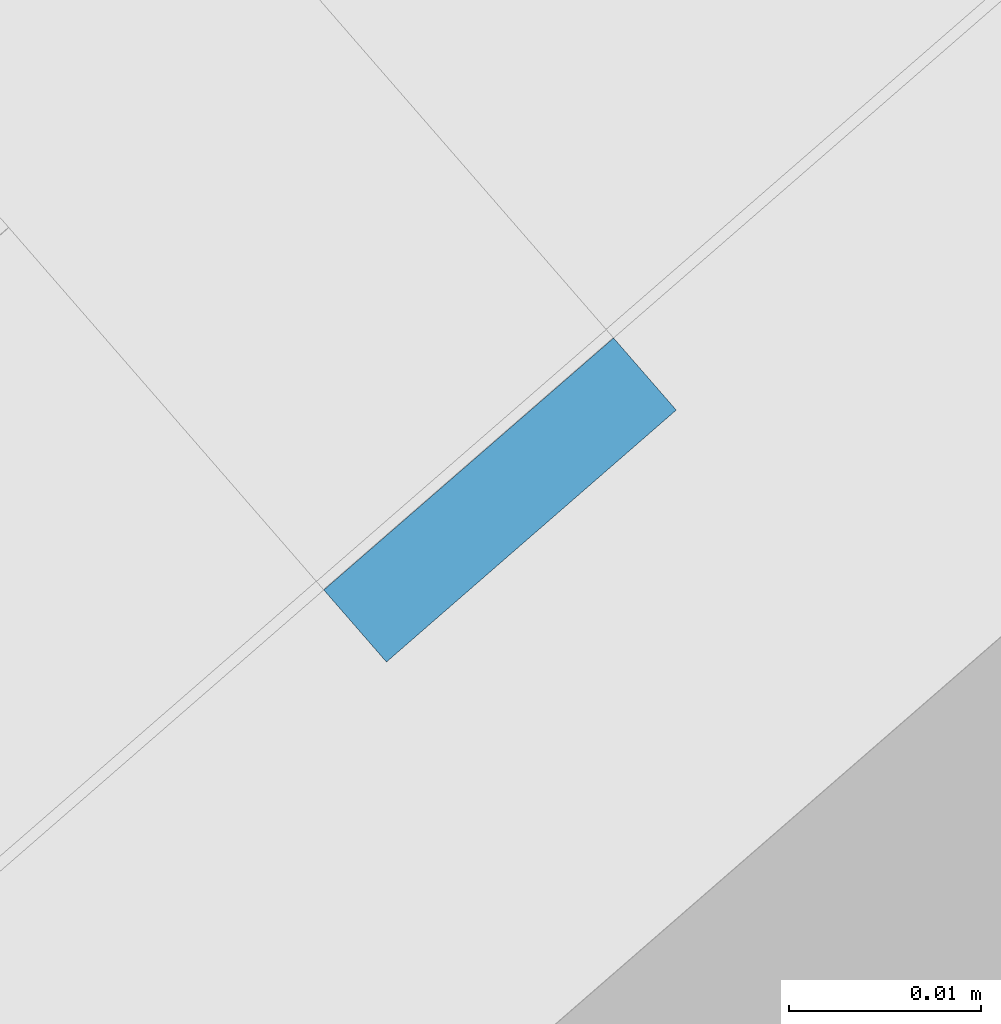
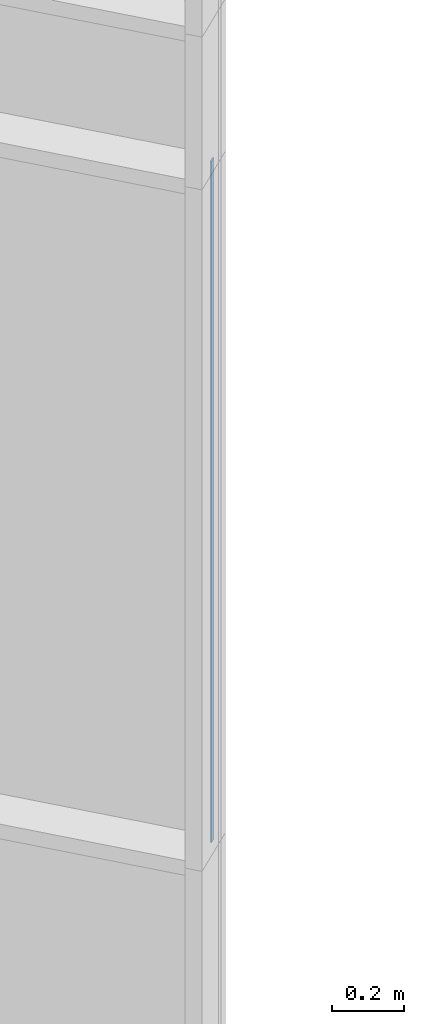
# One storey, part 53 of 390: 1 discrete accessory, 1 element without a shape of its own.
"""IFC2X3 building model written with IfcOpenShell, lengths in millimetres."""

from ifc_helpers import new_model, entity, si_unit, converted_unit, derived_unit, money_unit, direction, frame, origin_with_axes, place, context, subcontext, project, spatial, polyline, outline, extrude, material, type_object, element, aggregate, save


model = new_model("IFC2X3")

# Units and contexts
model_context = context("Model", 3, precision=1e-05, world=origin_with_axes(), true_north=direction((0.0, 1.0)))
body_context = subcontext(model_context, "Body", "Model", "MODEL_VIEW")
ifc_project = project(units=[si_unit("LENGTHUNIT", "METRE", prefix="MILLI"), si_unit("AREAUNIT", "SQUARE_METRE"), si_unit("VOLUMEUNIT", "CUBIC_METRE"), converted_unit("PLANEANGLEUNIT", "DEGREE", entity("IfcPlaneAngleMeasure", 0.0174532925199), si_unit("PLANEANGLEUNIT", "RADIAN"), dimensions=[0, 0, 0, 0, 0, 0, 0]), si_unit("SOLIDANGLEUNIT", "STERADIAN"), money_unit("EUR"), converted_unit("TIMEUNIT", "Year", entity("IfcTimeMeasure", 31556926.0), si_unit("TIMEUNIT", "SECOND"), dimensions=[0, 0, 1, 0, 0, 0, 0]), si_unit("MASSUNIT", "GRAM", prefix="KILO"), si_unit("THERMODYNAMICTEMPERATUREUNIT", "DEGREE_CELSIUS"), si_unit("LUMINOUSINTENSITYUNIT", "LUMEN"), si_unit("ENERGYUNIT", "JOULE", prefix="MEGA"), derived_unit("THERMALCONDUCTANCEUNIT", [(si_unit("POWERUNIT", "WATT"), 1), (si_unit("LENGTHUNIT", "METRE"), -1), (si_unit("THERMODYNAMICTEMPERATUREUNIT", "KELVIN"), -1)]), derived_unit("SPECIFICHEATCAPACITYUNIT", [(si_unit("ENERGYUNIT", "JOULE"), 1), (si_unit("MASSUNIT", "GRAM", prefix="KILO"), -1), (si_unit("THERMODYNAMICTEMPERATUREUNIT", "KELVIN"), -1)]), derived_unit("MASSDENSITYUNIT", [(si_unit("MASSUNIT", "GRAM", prefix="KILO"), 1), (si_unit("VOLUMEUNIT", "CUBIC_METRE"), -1)])], contexts=[model_context])

# Site, building, storey
site_placement = place(None, origin_with_axes())
site = spatial("IfcSite", under=ifc_project, at=site_placement, Name="Site", CompositionType="ELEMENT")
building_placement = place(site_placement, origin_with_axes())
building = spatial("IfcBuilding", under=site, at=building_placement, Name="Building", CompositionType="ELEMENT")
storey_placement = place(building_placement, origin_with_axes())
storey = spatial("IfcBuildingStorey", under=building, at=storey_placement, Name="1 korrus", CompositionType="ELEMENT", Elevation=0.0)

# Curtain wall, discrete accessory
curtain_wall_type = type_object("IfcCurtainWallType", Name="KLF-17", PredefinedType="NOTDEFINED")
curtain_wall_placement = place(storey_placement, frame((175630.823927, 104534.758561, -0.000216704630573), z_axis=(0.0, 0.0, 1.0), x_axis=(1.0, 0.0, 0.0)))
curtain_wall = element("IfcCurtainWall", 1, at=curtain_wall_placement, inside=storey, type_object=curtain_wall_type, Name="Klaasfassaad")
ifc_material = material(Name="Klaas")
discrete_accessory_type = type_object("IfcDiscreteAccessoryType", Name="5 x 2320 x 20")
discrete_accessory_placement = place(curtain_wall_placement, frame((2901.41286064, -3337.69369119, 3560.0002167), z_axis=(0.0, 0.0, 1.0), x_axis=(-0.65605902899, 0.754709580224, 0.0)))
discrete_accessory = element("IfcDiscreteAccessory", 2, at=discrete_accessory_placement, type_object=discrete_accessory_type, material=ifc_material, Name="KLF-17 klaaspakett", context=body_context, shape_type="SweptSolid", body=[
    extrude(outline(polyline([(7.51245440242, -1160.0), (12.4875098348, -1160.0), (12.4875098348, 1160.0), (7.51245440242, 1160.0), (7.51245440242, -1160.0)])), frame((0.0, -10.0, 0.0), z_axis=(0.0, 1.0, 0.0), x_axis=(1.0, 0.0, 0.0)), (0.0, 0.0, 1.0), 20.0),
])
aggregate(curtain_wall, [discrete_accessory])

save(model, "model.ifc")
